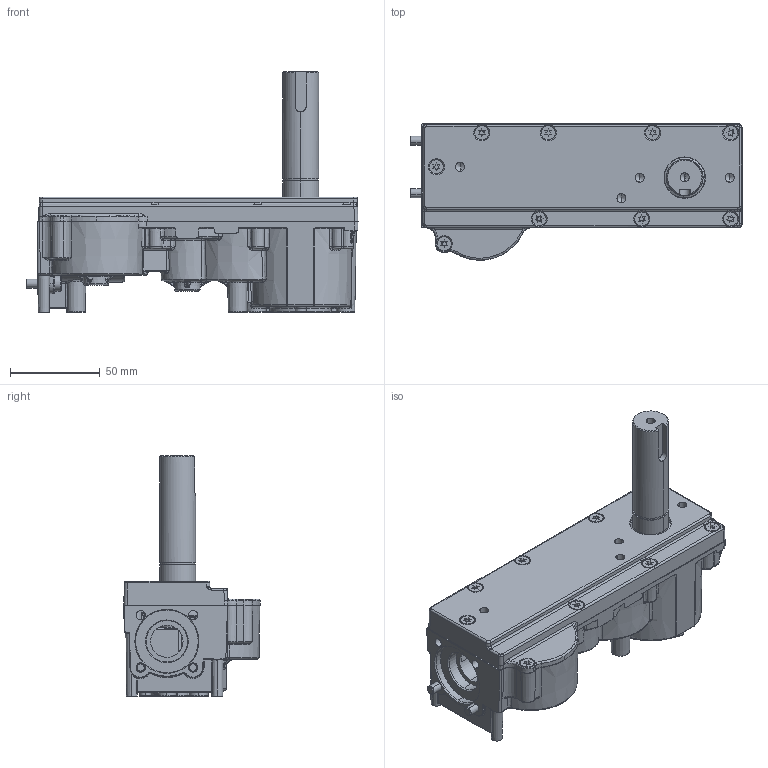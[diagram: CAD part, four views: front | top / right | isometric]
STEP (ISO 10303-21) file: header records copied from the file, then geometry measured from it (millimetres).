
FILE_DESCRIPTION (( 'STEP AP214' ), '1' );
FILE_NAME ('GB36.STEP', '2023-10-24T11:18:27', ( '' ), ( '' ), 'SwSTEP 2.0', 'SolidWorks 2023', '' );
FILE_SCHEMA (( 'AUTOMOTIVE_DESIGN' ));
Length unit declared in the file: millimetre
Products named in the file (1): GB36
Bounding box: 184.76 x 75.94 x 133.68 mm (x, y, z)
Volume: 223526.4 mm3; surface area: 128673.7 mm2
Topology: 18 solids, 18 shells, 2577 faces, 6214 edges, 3641 vertices
Faces by surface type: bspline 681, cylinder 577, plane 503, cone 359, torus 325, sphere 132
Entity records: 122500 total; most frequent: CARTESIAN_POINT 39174, ORIENTED_EDGE 12230, DIRECTION 10826, EDGE_CURVE 6115, AXIS2_PLACEMENT_3D 4603, VERTEX_POINT 3641, EDGE_LOOP 2706, CIRCLE 2706
